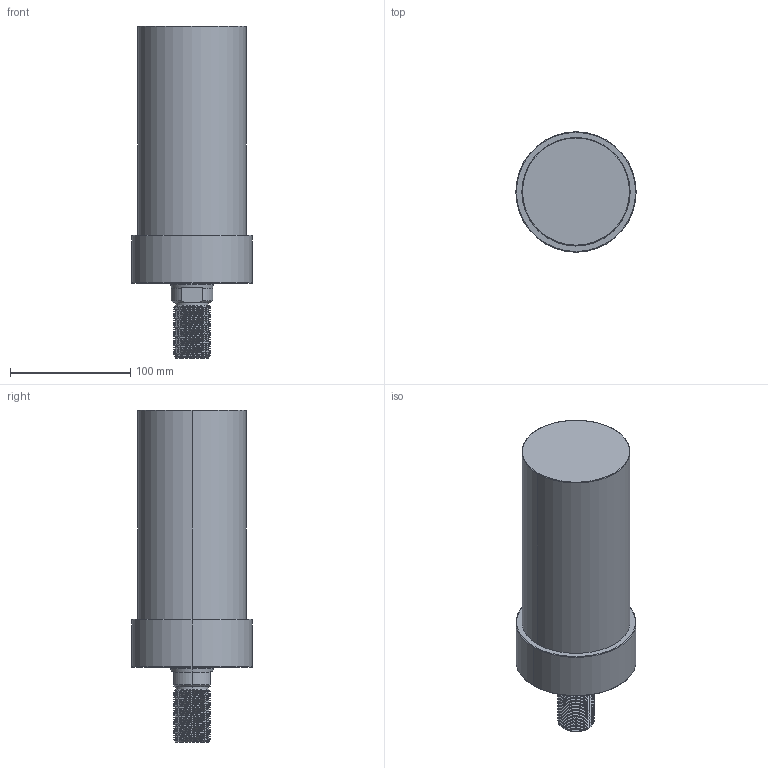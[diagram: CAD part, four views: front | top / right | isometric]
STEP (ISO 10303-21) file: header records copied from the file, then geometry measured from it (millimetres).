
FILE_DESCRIPTION (( 'STEP AP203' ), '1' );
FILE_NAME ('CLLU-090GT-130.STEP', '2020-01-15T01:33:35', ( '' ), ( '' ), 'SwSTEP 2.0', 'SolidWorks 2015', '' );
FILE_SCHEMA (( 'CONFIG_CONTROL_DESIGN' ));
Length unit declared in the file: millimetre
Products named in the file (1): CLLU-090GT-130
Bounding box: 100 x 100 x 276 mm (x, y, z)
Volume: 1458891.3 mm3; surface area: 89451.8 mm2
Topology: 1 solids, 1 shells, 125 faces, 326 edges, 204 vertices
Faces by surface type: cylinder 79, cone 26, plane 12, torus 6, bspline 2
Entity records: 7191 total; most frequent: CARTESIAN_POINT 4402, ORIENTED_EDGE 636, DIRECTION 515, EDGE_CURVE 318, VERTEX_POINT 204, AXIS2_PLACEMENT_3D 202, EDGE_LOOP 134, FACE_OUTER_BOUND 125
